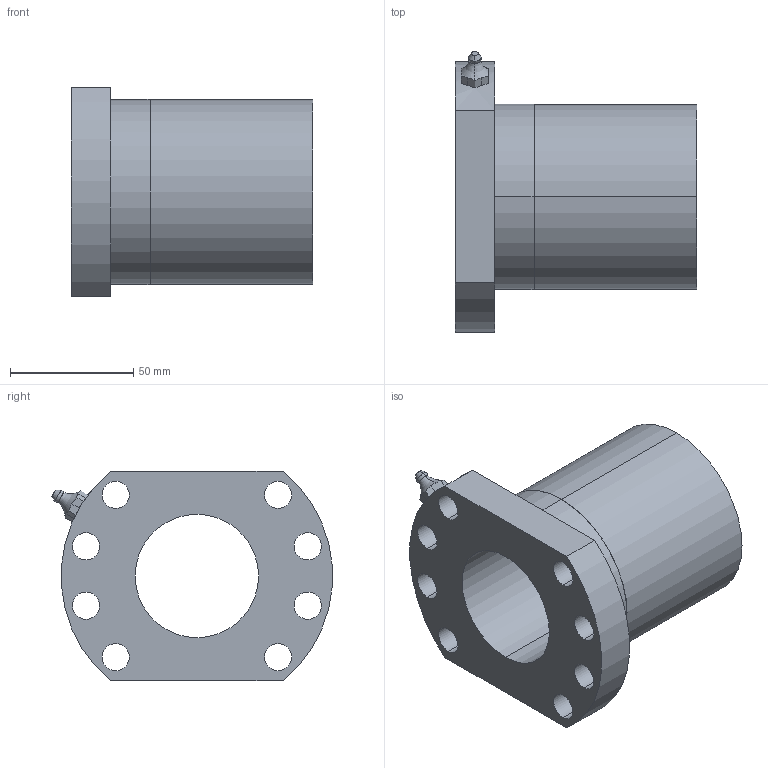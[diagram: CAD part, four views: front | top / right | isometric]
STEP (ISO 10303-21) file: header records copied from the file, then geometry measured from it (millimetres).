
FILE_DESCRIPTION (( 'STEP AP203' ), '1' );
FILE_NAME ('DEB5010-R-4EF.STEP', '2002-08-15T11:01:37', ( '.' ), ( '.' ), 'SwSTEP 2.0', 'SolidWorks 2001340', '' );
FILE_SCHEMA (( 'CONFIG_CONTROL_DESIGN' ));
Length unit declared in the file: millimetre
Products named in the file (1): DEB5010-R-4EF
Bounding box: 98 x 113.6 x 85 mm (x, y, z)
Volume: 289332.9 mm3; surface area: 55839.5 mm2
Topology: 1 solids, 1 shells, 55 faces, 150 edges, 98 vertices
Faces by surface type: cylinder 30, plane 19, torus 2, sphere 2, cone 2
Entity records: 1899 total; most frequent: CARTESIAN_POINT 420, DIRECTION 294, ORIENTED_EDGE 292, EDGE_CURVE 146, AXIS2_PLACEMENT_3D 122, VERTEX_POINT 96, EDGE_LOOP 76, CIRCLE 66
